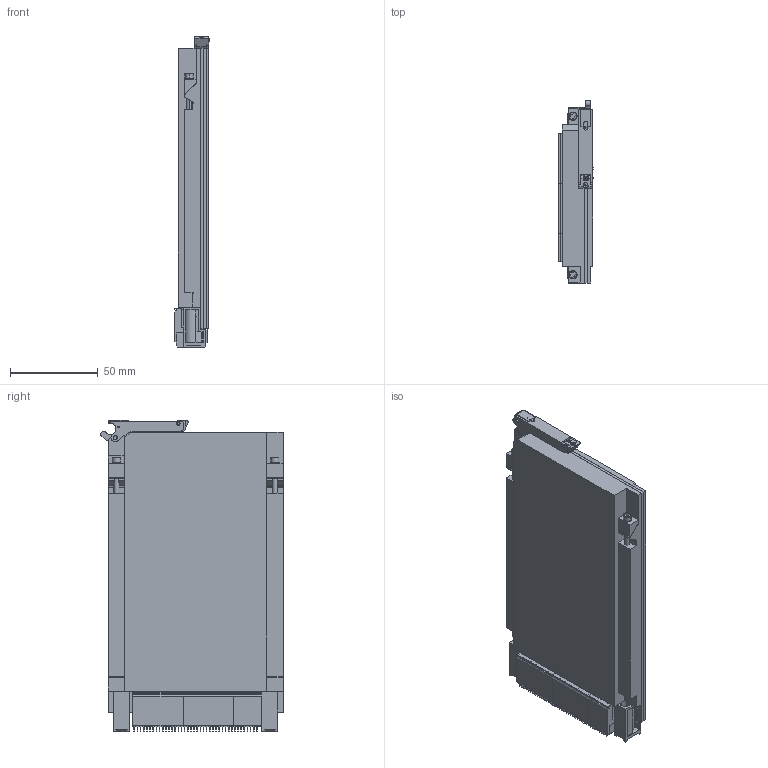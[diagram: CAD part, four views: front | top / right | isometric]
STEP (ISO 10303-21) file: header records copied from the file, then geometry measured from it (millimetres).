
FILE_DESCRIPTION (( 'STEP AP203' ), '1' );
FILE_NAME ('06-02115000-003_DUMMY.STEP', '2021-03-22T20:47:02', ( '' ), ( '' ), 'SwSTEP 2.0', 'SolidWorks 2016', '' );
FILE_SCHEMA (( 'CONFIG_CONTROL_DESIGN' ));
Products named in the file (13): 260 System Thermal Testing_cover 311-TC 48.2PS-260; 1410189-3-003; PL-2-3-254_SDG_1; VPX BOARD-003_3UVPX 311TLC CUTOUT PS; 06-02115010-003_dummy_1; 260HT SCREW_SDG_16; 06-02115000-003_DUMMY; 1774226_1-1469492-9-003; VPX BOARD ASSEMBLY-003_3UVPX 48.2 311TLC PS; 1410187-3-003; 950-202_SDG_98019A216; 260HTSI VITA 48.2 ALUMINUM PARTS_FRONT  WEDGE VITA 48.2; Series 311_CAD File
Assembly tree (18 placements, depth 3):
  06-02115000-003_DUMMY
    260 System Thermal Testing_cover 311-TC 48.2PS-260
    06-02115010-003_dummy_1
    260HT SCREW_SDG_16  x2
    260HTSI VITA 48.2 ALUMINUM PARTS_FRONT  WEDGE VITA 48.2  x2
    950-202_SDG_98019A216  x2
    Series 311_CAD File
    VPX BOARD ASSEMBLY-003_3UVPX 48.2 311TLC PS
      VPX BOARD-003_3UVPX 311TLC CUTOUT PS
      1410187-3-003  x2
      1774226_1-1469492-9-003  x2
      1410189-3-003
    PL-2-3-254_SDG_1  x2
Bounding box: 19.65 x 104.18 x 177.61 mm (x, y, z)
Volume: 141982.8 mm3; surface area: 137533.4 mm2
Topology: 16 solids, 24 shells, 3059 faces, 7959 edges, 5261 vertices
Faces by surface type: plane 2536, cylinder 394, cone 83, bspline 36, torus 10
Entity records: 133983 total; most frequent: CARTESIAN_POINT 83455, ORIENTED_EDGE 10310, DIRECTION 9513, EDGE_CURVE 5157, LINE 4379, VECTOR 4379, VERTEX_POINT 3415, AXIS2_PLACEMENT_3D 2567
